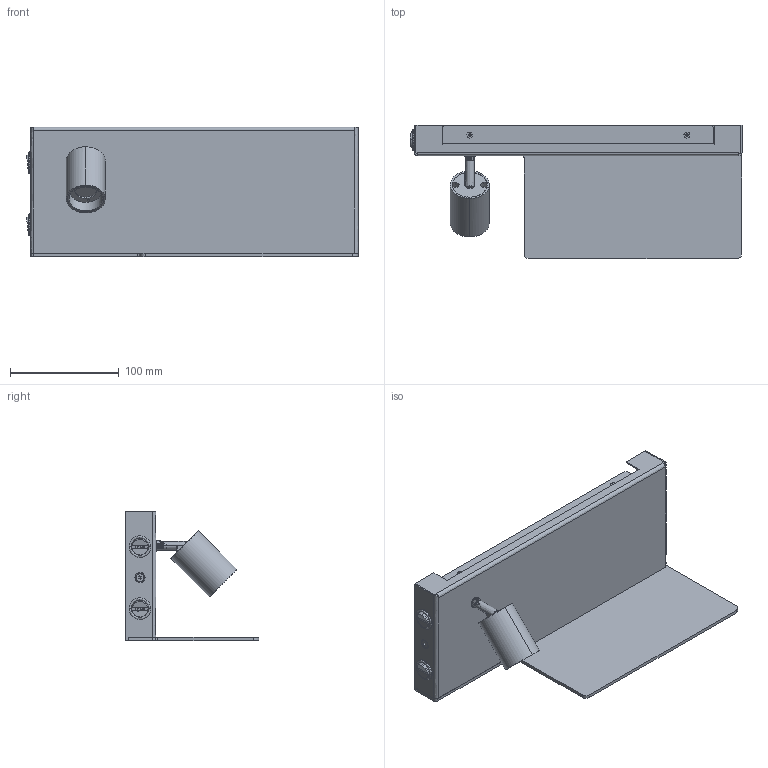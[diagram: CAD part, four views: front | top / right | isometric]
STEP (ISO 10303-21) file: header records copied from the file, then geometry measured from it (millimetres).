
FILE_DESCRIPTION(/* description */ (''),/* implementation_level */ '2;1');
FILE_NAME(/* name */ 'A135.033',/* time_stamp */ '2024-09-02T14:38:43+02:00',/* author */ (''),/* organization */ (''),/* preprocessor_version */ 'ST-DEVELOPER v16.5',/* originating_system */ '',/* authorisation */ '');
FILE_SCHEMA (('AUTOMOTIVE_DESIGN'));
Products named in the file (1): Document
Bounding box: 305.86 x 123 x 119.28 mm (x, y, z)
Volume: 231684.9 mm3; surface area: 247197.5 mm2
Topology: 45 solids, 46 shells, 3101 faces, 8427 edges, 5426 vertices
Faces by surface type: plane 1972, bspline 1129
Entity records: 114767 total; most frequent: CARTESIAN_POINT 62056, ORIENTED_EDGE 16740, EDGE_CURVE 8395, B_SPLINE_CURVE_WITH_KNOTS 6303, VERTEX_POINT 5426, EDGE_LOOP 3293, ADVANCED_FACE 3101, FACE_OUTER_BOUND 3101
